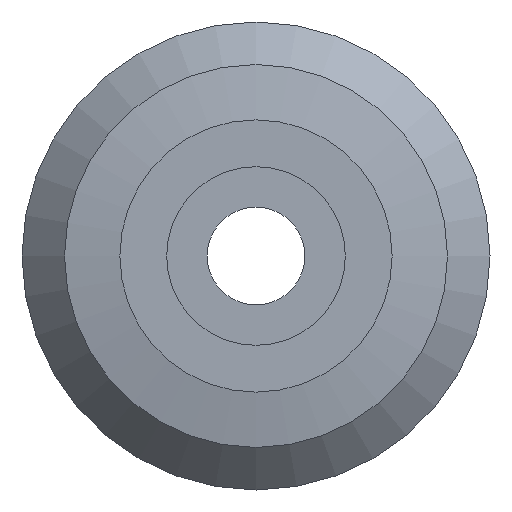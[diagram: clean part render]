
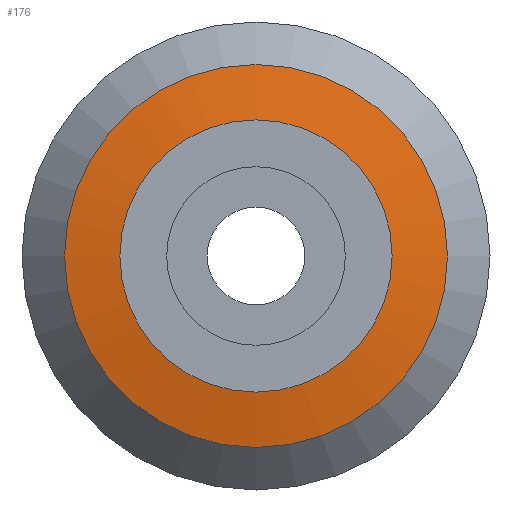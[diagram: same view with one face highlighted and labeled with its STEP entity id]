
A CAD part, front view. The second image highlights one B-rep face of the part: STEP entity #176.
In plain terms, the highlighted conical face has half-angle 80 degrees and reference radius 3.85 mm.
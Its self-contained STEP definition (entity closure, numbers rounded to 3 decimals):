
#142=CARTESIAN_POINT('',(-3.2,-2.6,0.0));
#143=VERTEX_POINT('',#142);
#144=CARTESIAN_POINT('',(0.0,-2.6,0.0));
#145=DIRECTION('',(0.0,1.0,0.0));
#146=DIRECTION('',(-1.0,0.0,0.0));
#147=AXIS2_PLACEMENT_3D('',#144,#145,#146);
#148=CIRCLE('',#147,3.2);
#149=EDGE_CURVE('',#143,#143,#148,.T.);
#157=CARTESIAN_POINT('',(0.0,-2.485,0.0));
#158=DIRECTION('',(0.0,1.0,0.0));
#159=DIRECTION('',(-1.0,0.0,0.0));
#160=AXIS2_PLACEMENT_3D('',#157,#158,#159);
#161=CONICAL_SURFACE('',#160,3.85,80.);
#162=CARTESIAN_POINT('',(-4.5,-2.371,0.0));
#163=VERTEX_POINT('',#162);
#164=CARTESIAN_POINT('',(0.0,-2.371,0.0));
#165=DIRECTION('',(0.0,1.0,0.0));
#166=DIRECTION('',(-1.0,0.0,0.0));
#167=AXIS2_PLACEMENT_3D('',#164,#165,#166);
#168=CIRCLE('',#167,4.5);
#169=EDGE_CURVE('',#163,#163,#168,.T.);
#170=ORIENTED_EDGE('',*,*,#169,.F.);
#171=EDGE_LOOP('',(#170));
#172=FACE_OUTER_BOUND('',#171,.T.);
#173=ORIENTED_EDGE('',*,*,#149,.T.);
#174=EDGE_LOOP('',(#173));
#175=FACE_BOUND('',#174,.T.);
#176=ADVANCED_FACE('',(#172,#175),#161,.T.);
